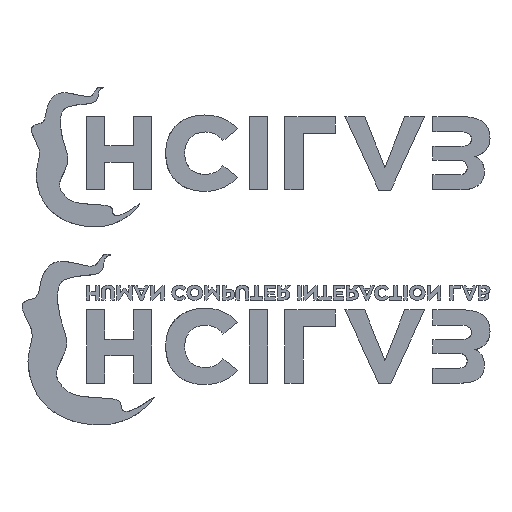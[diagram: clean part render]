
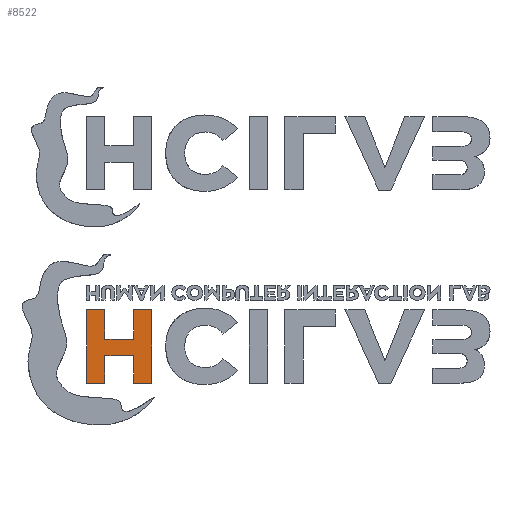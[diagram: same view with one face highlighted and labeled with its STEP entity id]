
A CAD part, front view. The second image highlights one B-rep face of the part: STEP entity #8522.
In plain terms, the highlighted planar face has unit normal (0, -1, 0).
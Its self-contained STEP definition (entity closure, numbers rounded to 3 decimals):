
#496=FACE_OUTER_BOUND('',#996,.T.);
#996=EDGE_LOOP('',(#5709,#5710,#5711,#5712,#5713,#5714,#5715,#5716,#5717,
#5718,#5719,#5720));
#1513=LINE('',#11451,#2527);
#1528=LINE('',#11482,#2542);
#1532=LINE('',#11488,#2546);
#1533=LINE('',#11491,#2547);
#1535=LINE('',#11495,#2549);
#1537=LINE('',#11499,#2551);
#1539=LINE('',#11503,#2553);
#1541=LINE('',#11506,#2555);
#1542=LINE('',#11509,#2556);
#1544=LINE('',#11513,#2558);
#1546=LINE('',#11517,#2560);
#1548=LINE('',#11520,#2562);
#2527=VECTOR('',#9539,10.);
#2542=VECTOR('',#9558,10.);
#2546=VECTOR('',#9564,10.);
#2547=VECTOR('',#9567,10.);
#2549=VECTOR('',#9571,10.);
#2551=VECTOR('',#9575,10.);
#2553=VECTOR('',#9579,10.);
#2555=VECTOR('',#9583,10.);
#2556=VECTOR('',#9586,10.);
#2558=VECTOR('',#9590,10.);
#2560=VECTOR('',#9594,10.);
#2562=VECTOR('',#9598,10.);
#3535=VERTEX_POINT('',#11449);
#3536=VERTEX_POINT('',#11450);
#3549=VERTEX_POINT('',#11480);
#3550=VERTEX_POINT('',#11481);
#3551=VERTEX_POINT('',#11486);
#3552=VERTEX_POINT('',#11490);
#3553=VERTEX_POINT('',#11494);
#3554=VERTEX_POINT('',#11498);
#3555=VERTEX_POINT('',#11502);
#3556=VERTEX_POINT('',#11508);
#3557=VERTEX_POINT('',#11512);
#3558=VERTEX_POINT('',#11516);
#4377=EDGE_CURVE('',#3535,#3536,#1513,.T.);
#4392=EDGE_CURVE('',#3549,#3550,#1528,.T.);
#4396=EDGE_CURVE('',#3549,#3551,#1532,.T.);
#4397=EDGE_CURVE('',#3552,#3550,#1533,.T.);
#4399=EDGE_CURVE('',#3551,#3553,#1535,.T.);
#4401=EDGE_CURVE('',#3553,#3554,#1537,.T.);
#4403=EDGE_CURVE('',#3554,#3555,#1539,.T.);
#4405=EDGE_CURVE('',#3555,#3535,#1541,.T.);
#4406=EDGE_CURVE('',#3536,#3556,#1542,.T.);
#4408=EDGE_CURVE('',#3556,#3557,#1544,.T.);
#4410=EDGE_CURVE('',#3558,#3557,#1546,.T.);
#4412=EDGE_CURVE('',#3558,#3552,#1548,.T.);
#5709=ORIENTED_EDGE('',*,*,#4406,.T.);
#5710=ORIENTED_EDGE('',*,*,#4408,.T.);
#5711=ORIENTED_EDGE('',*,*,#4410,.F.);
#5712=ORIENTED_EDGE('',*,*,#4412,.T.);
#5713=ORIENTED_EDGE('',*,*,#4397,.T.);
#5714=ORIENTED_EDGE('',*,*,#4392,.F.);
#5715=ORIENTED_EDGE('',*,*,#4396,.T.);
#5716=ORIENTED_EDGE('',*,*,#4399,.T.);
#5717=ORIENTED_EDGE('',*,*,#4401,.T.);
#5718=ORIENTED_EDGE('',*,*,#4403,.T.);
#5719=ORIENTED_EDGE('',*,*,#4405,.T.);
#5720=ORIENTED_EDGE('',*,*,#4377,.T.);
#8142=PLANE('',#9076);
#8522=ADVANCED_FACE('',(#496),#8142,.F.);
#9076=AXIS2_PLACEMENT_3D('',#11521,#9599,#9600);
#9539=DIRECTION('',(-1.,0.,0.));
#9558=DIRECTION('',(-1.,0.,0.));
#9564=DIRECTION('',(0.,0.,-1.));
#9567=DIRECTION('',(0.,0.,1.));
#9571=DIRECTION('',(1.,0.,0.));
#9575=DIRECTION('',(0.,0.,1.));
#9579=DIRECTION('',(-1.,0.,0.));
#9583=DIRECTION('',(0.,0.,-1.));
#9586=DIRECTION('',(0.,0.,1.));
#9590=DIRECTION('',(-1.,0.,0.));
#9594=DIRECTION('',(-0.005,0.,1.));
#9598=DIRECTION('',(1.,0.,0.));
#9599=DIRECTION('center_axis',(0.,1.,0.));
#9600=DIRECTION('ref_axis',(1.,0.,0.));
#11449=CARTESIAN_POINT('',(12.853,0.,12.377));
#11450=CARTESIAN_POINT('',(5.001,0.,12.377));
#11451=CARTESIAN_POINT('',(6.941,0.,12.377));
#11480=CARTESIAN_POINT('',(12.853,0.,7.89));
#11481=CARTESIAN_POINT('',(5.001,0.,7.89));
#11482=CARTESIAN_POINT('',(5.001,0.,7.89));
#11486=CARTESIAN_POINT('',(12.853,0.,0.392));
#11488=CARTESIAN_POINT('',(12.853,0.,8.89));
#11490=CARTESIAN_POINT('',(5.001,0.,0.392));
#11491=CARTESIAN_POINT('',(5.001,0.,0.392));
#11494=CARTESIAN_POINT('',(17.761,0.,0.392));
#11495=CARTESIAN_POINT('',(12.853,0.,0.392));
#11498=CARTESIAN_POINT('',(17.761,0.,20.333));
#11499=CARTESIAN_POINT('',(17.761,0.,0.392));
#11502=CARTESIAN_POINT('',(12.853,0.,20.333));
#11503=CARTESIAN_POINT('',(17.761,0.,20.333));
#11506=CARTESIAN_POINT('',(12.853,0.,11.87));
#11508=CARTESIAN_POINT('',(5.001,0.,20.333));
#11509=CARTESIAN_POINT('',(5.001,0.,13.377));
#11512=CARTESIAN_POINT('',(0.,0.,20.333));
#11513=CARTESIAN_POINT('',(5.001,0.,20.333));
#11516=CARTESIAN_POINT('',(0.09,0.,0.392));
#11517=CARTESIAN_POINT('',(0.09,0.,0.392));
#11520=CARTESIAN_POINT('',(0.09,0.,0.392));
#11521=CARTESIAN_POINT('Origin',(8.881,0.,10.362));
